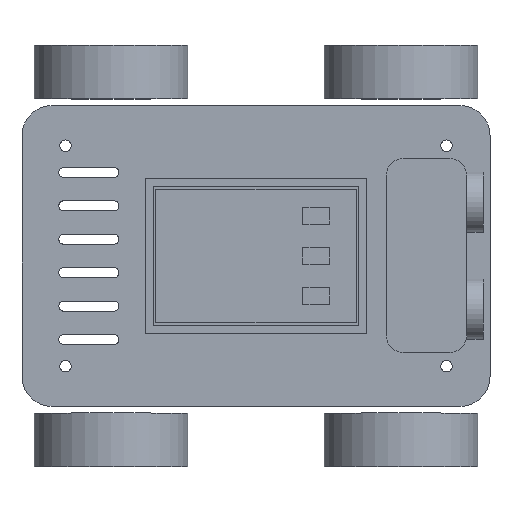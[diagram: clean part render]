
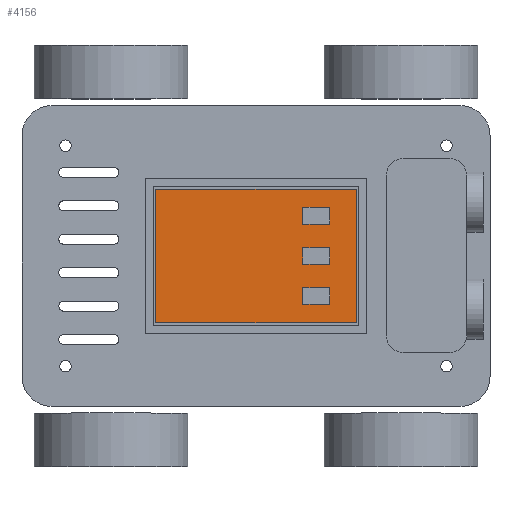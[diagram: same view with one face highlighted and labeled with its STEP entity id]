
A CAD part, top view. The second image highlights one B-rep face of the part: STEP entity #4156.
In plain terms, the highlighted planar face has unit normal (0, 0, 1).
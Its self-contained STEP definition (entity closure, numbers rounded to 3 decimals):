
#3842 = VERTEX_POINT('',#3843);
#3843 = CARTESIAN_POINT('',(-30.,-20.,8.));
#3850 = PLANE('',#3851);
#3851 = AXIS2_PLACEMENT_3D('',#3852,#3853,#3854);
#3852 = CARTESIAN_POINT('',(-30.,-20.,6.4));
#3853 = DIRECTION('',(1.,0.,0.));
#3854 = DIRECTION('',(0.,0.,1.));
#3862 = PLANE('',#3863);
#3863 = AXIS2_PLACEMENT_3D('',#3864,#3865,#3866);
#3864 = CARTESIAN_POINT('',(-30.,-20.,6.4));
#3865 = DIRECTION('',(0.,1.,0.));
#3866 = DIRECTION('',(0.,0.,1.));
#3903 = VERTEX_POINT('',#3904);
#3904 = CARTESIAN_POINT('',(-30.,20.,8.));
#3918 = PLANE('',#3919);
#3919 = AXIS2_PLACEMENT_3D('',#3920,#3921,#3922);
#3920 = CARTESIAN_POINT('',(-30.,20.,6.4));
#3921 = DIRECTION('',(0.,1.,0.));
#3922 = DIRECTION('',(0.,0.,1.));
#3930 = EDGE_CURVE('',#3842,#3903,#3931,.T.);
#3931 = SURFACE_CURVE('',#3932,(#3936,#3943),.PCURVE_S1.);
#3932 = LINE('',#3933,#3934);
#3933 = CARTESIAN_POINT('',(-30.,-20.,8.));
#3934 = VECTOR('',#3935,1.);
#3935 = DIRECTION('',(0.,1.,0.));
#3936 = PCURVE('',#3850,#3937);
#3937 = DEFINITIONAL_REPRESENTATION('',(#3938),#3942);
#3938 = LINE('',#3939,#3940);
#3939 = CARTESIAN_POINT('',(1.6,0.));
#3940 = VECTOR('',#3941,1.);
#3941 = DIRECTION('',(0.,-1.));
#3942 = ( GEOMETRIC_REPRESENTATION_CONTEXT(2) 
PARAMETRIC_REPRESENTATION_CONTEXT() REPRESENTATION_CONTEXT('2D SPACE',''
  ) );
#3943 = PCURVE('',#3944,#3949);
#3944 = PLANE('',#3945);
#3945 = AXIS2_PLACEMENT_3D('',#3946,#3947,#3948);
#3946 = CARTESIAN_POINT('',(-30.,-20.,8.));
#3947 = DIRECTION('',(0.,0.,1.));
#3948 = DIRECTION('',(1.,0.,0.));
#3949 = DEFINITIONAL_REPRESENTATION('',(#3950),#3954);
#3950 = LINE('',#3951,#3952);
#3951 = CARTESIAN_POINT('',(0.,0.));
#3952 = VECTOR('',#3953,1.);
#3953 = DIRECTION('',(0.,1.));
#3954 = ( GEOMETRIC_REPRESENTATION_CONTEXT(2) 
PARAMETRIC_REPRESENTATION_CONTEXT() REPRESENTATION_CONTEXT('2D SPACE',''
  ) );
#3962 = VERTEX_POINT('',#3963);
#3963 = CARTESIAN_POINT('',(30.,-20.,8.));
#3970 = PLANE('',#3971);
#3971 = AXIS2_PLACEMENT_3D('',#3972,#3973,#3974);
#3972 = CARTESIAN_POINT('',(30.,-20.,6.4));
#3973 = DIRECTION('',(1.,0.,0.));
#3974 = DIRECTION('',(0.,0.,1.));
#4013 = VERTEX_POINT('',#4014);
#4014 = CARTESIAN_POINT('',(30.,20.,8.));
#4035 = EDGE_CURVE('',#3962,#4013,#4036,.T.);
#4036 = SURFACE_CURVE('',#4037,(#4041,#4048),.PCURVE_S1.);
#4037 = LINE('',#4038,#4039);
#4038 = CARTESIAN_POINT('',(30.,-20.,8.));
#4039 = VECTOR('',#4040,1.);
#4040 = DIRECTION('',(0.,1.,0.));
#4041 = PCURVE('',#3970,#4042);
#4042 = DEFINITIONAL_REPRESENTATION('',(#4043),#4047);
#4043 = LINE('',#4044,#4045);
#4044 = CARTESIAN_POINT('',(1.6,0.));
#4045 = VECTOR('',#4046,1.);
#4046 = DIRECTION('',(0.,-1.));
#4047 = ( GEOMETRIC_REPRESENTATION_CONTEXT(2) 
PARAMETRIC_REPRESENTATION_CONTEXT() REPRESENTATION_CONTEXT('2D SPACE',''
  ) );
#4048 = PCURVE('',#3944,#4049);
#4049 = DEFINITIONAL_REPRESENTATION('',(#4050),#4054);
#4050 = LINE('',#4051,#4052);
#4051 = CARTESIAN_POINT('',(60.,0.));
#4052 = VECTOR('',#4053,1.);
#4053 = DIRECTION('',(0.,1.));
#4054 = ( GEOMETRIC_REPRESENTATION_CONTEXT(2) 
PARAMETRIC_REPRESENTATION_CONTEXT() REPRESENTATION_CONTEXT('2D SPACE',''
  ) );
#4081 = EDGE_CURVE('',#3842,#3962,#4082,.T.);
#4082 = SURFACE_CURVE('',#4083,(#4087,#4094),.PCURVE_S1.);
#4083 = LINE('',#4084,#4085);
#4084 = CARTESIAN_POINT('',(-30.,-20.,8.));
#4085 = VECTOR('',#4086,1.);
#4086 = DIRECTION('',(1.,0.,0.));
#4087 = PCURVE('',#3862,#4088);
#4088 = DEFINITIONAL_REPRESENTATION('',(#4089),#4093);
#4089 = LINE('',#4090,#4091);
#4090 = CARTESIAN_POINT('',(1.6,0.));
#4091 = VECTOR('',#4092,1.);
#4092 = DIRECTION('',(0.,1.));
#4093 = ( GEOMETRIC_REPRESENTATION_CONTEXT(2) 
PARAMETRIC_REPRESENTATION_CONTEXT() REPRESENTATION_CONTEXT('2D SPACE',''
  ) );
#4094 = PCURVE('',#3944,#4095);
#4095 = DEFINITIONAL_REPRESENTATION('',(#4096),#4100);
#4096 = LINE('',#4097,#4098);
#4097 = CARTESIAN_POINT('',(0.,0.));
#4098 = VECTOR('',#4099,1.);
#4099 = DIRECTION('',(1.,0.));
#4100 = ( GEOMETRIC_REPRESENTATION_CONTEXT(2) 
PARAMETRIC_REPRESENTATION_CONTEXT() REPRESENTATION_CONTEXT('2D SPACE',''
  ) );
#4128 = EDGE_CURVE('',#3903,#4013,#4129,.T.);
#4129 = SURFACE_CURVE('',#4130,(#4134,#4141),.PCURVE_S1.);
#4130 = LINE('',#4131,#4132);
#4131 = CARTESIAN_POINT('',(-30.,20.,8.));
#4132 = VECTOR('',#4133,1.);
#4133 = DIRECTION('',(1.,0.,0.));
#4134 = PCURVE('',#3918,#4135);
#4135 = DEFINITIONAL_REPRESENTATION('',(#4136),#4140);
#4136 = LINE('',#4137,#4138);
#4137 = CARTESIAN_POINT('',(1.6,0.));
#4138 = VECTOR('',#4139,1.);
#4139 = DIRECTION('',(0.,1.));
#4140 = ( GEOMETRIC_REPRESENTATION_CONTEXT(2) 
PARAMETRIC_REPRESENTATION_CONTEXT() REPRESENTATION_CONTEXT('2D SPACE',''
  ) );
#4141 = PCURVE('',#3944,#4142);
#4142 = DEFINITIONAL_REPRESENTATION('',(#4143),#4147);
#4143 = LINE('',#4144,#4145);
#4144 = CARTESIAN_POINT('',(0.,40.));
#4145 = VECTOR('',#4146,1.);
#4146 = DIRECTION('',(1.,0.));
#4147 = ( GEOMETRIC_REPRESENTATION_CONTEXT(2) 
PARAMETRIC_REPRESENTATION_CONTEXT() REPRESENTATION_CONTEXT('2D SPACE',''
  ) );
#4156 = ADVANCED_FACE('',(#4157),#3944,.T.);
#4157 = FACE_BOUND('',#4158,.T.);
#4158 = EDGE_LOOP('',(#4159,#4160,#4161,#4162));
#4159 = ORIENTED_EDGE('',*,*,#3930,.F.);
#4160 = ORIENTED_EDGE('',*,*,#4081,.T.);
#4161 = ORIENTED_EDGE('',*,*,#4035,.T.);
#4162 = ORIENTED_EDGE('',*,*,#4128,.F.);
